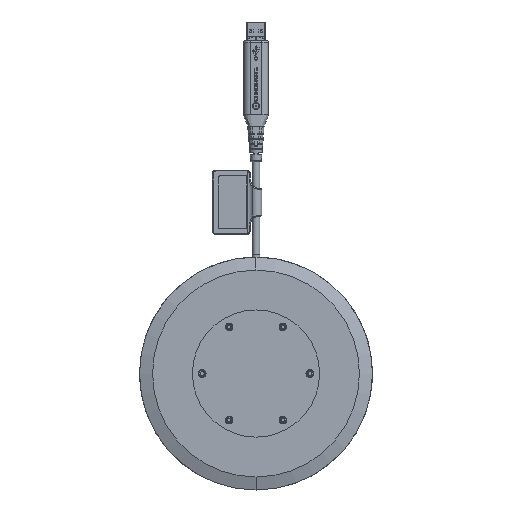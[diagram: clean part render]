
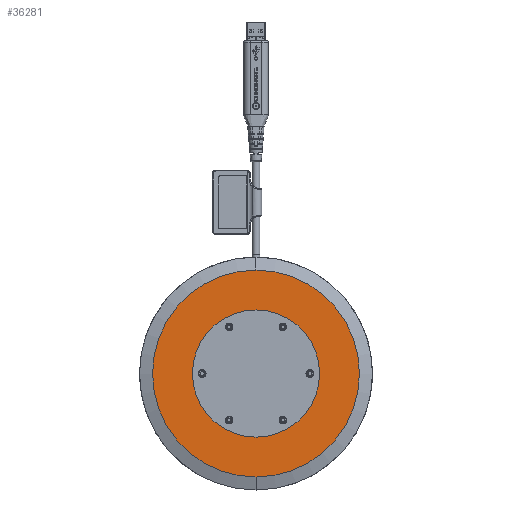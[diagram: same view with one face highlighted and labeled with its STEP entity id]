
A CAD part, left-side view. The second image highlights one B-rep face of the part: STEP entity #36281.
In plain terms, the highlighted planar face has unit normal (-1, 0, 0).
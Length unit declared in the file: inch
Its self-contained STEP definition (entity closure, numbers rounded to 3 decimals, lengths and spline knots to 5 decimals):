
#3444 = FACE_BOUND ( 'NONE', #126282, .T. ) ;
#3454 = FACE_OUTER_BOUND ( 'NONE', #126295, .T. ) ;
#36281 = ADVANCED_FACE ( 'NONE', ( #3444, #3454 ), #150708, .T. ) ;
#37369 = AXIS2_PLACEMENT_3D ( 'NONE', #150723, #150725, #150726 ) ;
#87239 = ORIENTED_EDGE ( 'NONE', *, *, #127536, .F. ) ;
#87243 = ORIENTED_EDGE ( 'NONE', *, *, #125663, .F. ) ;
#87246 = ORIENTED_EDGE ( 'NONE', *, *, #125707, .F. ) ;
#87250 = ORIENTED_EDGE ( 'NONE', *, *, #127534, .F. ) ;
#102092 = AXIS2_PLACEMENT_3D ( 'NONE', #112588, #112589, #112590 ) ;
#102140 = AXIS2_PLACEMENT_3D ( 'NONE', #112755, #112756, #112757 ) ;
#102157 = AXIS2_PLACEMENT_3D ( 'NONE', #113204, #113206, #113208 ) ;
#102161 = AXIS2_PLACEMENT_3D ( 'NONE', #113211, #113213, #113215 ) ;
#107381 = CIRCLE ( 'NONE', #102092, 1.625 ) ;
#107574 = CIRCLE ( 'NONE', #102140, 2.643 ) ;
#107633 = CIRCLE ( 'NONE', #102157, 2.643 ) ;
#107635 = CIRCLE ( 'NONE', #102161, 1.625 ) ;
#112588 = CARTESIAN_POINT ( 'NONE',  ( 0., 0., 0. ) ) ;
#112589 = DIRECTION ( 'NONE',  ( -1., 0., 0. ) ) ;
#112590 = DIRECTION ( 'NONE',  ( 0., 0., 1. ) ) ;
#112755 = CARTESIAN_POINT ( 'NONE',  ( 0., 0., 0. ) ) ;
#112756 = DIRECTION ( 'NONE',  ( 1., 0., 0. ) ) ;
#112757 = DIRECTION ( 'NONE',  ( 0., 0., -1. ) ) ;
#112870 = CARTESIAN_POINT ( 'NONE',  ( 0., 0., -1.625 ) ) ;
#112871 = CARTESIAN_POINT ( 'NONE',  ( 0., 0., 1.625 ) ) ;
#112899 = CARTESIAN_POINT ( 'NONE',  ( 0., 0., -2.643 ) ) ;
#112935 = CARTESIAN_POINT ( 'NONE',  ( 0., 0., 2.643 ) ) ;
#113204 = CARTESIAN_POINT ( 'NONE',  ( 0., 0., 0. ) ) ;
#113206 = DIRECTION ( 'NONE',  ( 1., 0., 0. ) ) ;
#113208 = DIRECTION ( 'NONE',  ( 0., 0., -1. ) ) ;
#113211 = CARTESIAN_POINT ( 'NONE',  ( 0., 0., 0. ) ) ;
#113213 = DIRECTION ( 'NONE',  ( -1., 0., 0. ) ) ;
#113215 = DIRECTION ( 'NONE',  ( 0., 0., 1. ) ) ;
#125663 = EDGE_CURVE ( 'NONE', #126546, #126547, #107381, .T. ) ;
#125707 = EDGE_CURVE ( 'NONE', #126568, #126597, #107574, .T. ) ;
#126282 = EDGE_LOOP ( 'NONE', ( #87239, #87243 ) ) ;
#126295 = EDGE_LOOP ( 'NONE', ( #87246, #87250 ) ) ;
#126546 = VERTEX_POINT ( 'NONE', #112870 ) ;
#126547 = VERTEX_POINT ( 'NONE', #112871 ) ;
#126568 = VERTEX_POINT ( 'NONE', #112899 ) ;
#126597 = VERTEX_POINT ( 'NONE', #112935 ) ;
#127534 = EDGE_CURVE ( 'NONE', #126597, #126568, #107633, .T. ) ;
#127536 = EDGE_CURVE ( 'NONE', #126547, #126546, #107635, .T. ) ;
#150708 = PLANE ( 'NONE',  #37369 ) ;
#150723 = CARTESIAN_POINT ( 'NONE',  ( 0., 0., 0. ) ) ;
#150725 = DIRECTION ( 'NONE',  ( -1., 0., 0. ) ) ;
#150726 = DIRECTION ( 'NONE',  ( 0., 0., 1. ) ) ;
